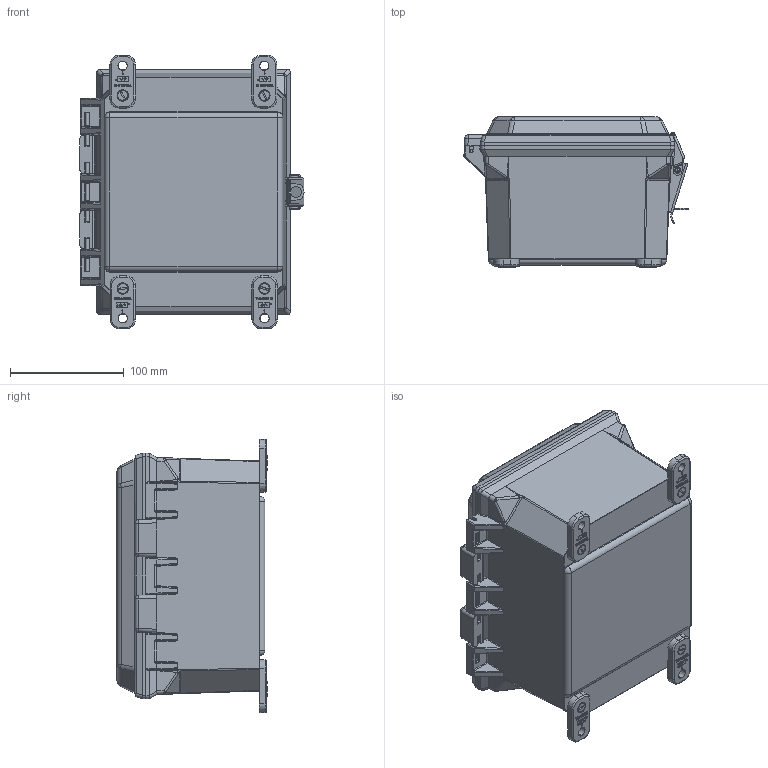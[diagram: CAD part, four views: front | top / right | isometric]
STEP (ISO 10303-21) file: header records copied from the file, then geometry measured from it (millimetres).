
FILE_DESCRIPTION (( 'STEP AP203' ), '1' );
FILE_NAME ('PJU864LW.step', '2014-07-17T17:43:25', ( '' ), ( '' ), 'SwSTEP 2.0', 'SolidWorks 2014', '' );
FILE_SCHEMA (( 'CONFIG_CONTROL_DESIGN' ));
Length unit declared in the file: inch
Products named in the file (16): AMU864LW_default; 70-HPIN8316; PJU864LW; 70-AMPSSLCH316 (LATCH BASE); 70-AMPSSLCH316 (LATCH LEVER); 2407001_box; 70-AMPSSLCH316 (LATCH HOOK); 2409001_WINDOW; 70-AMPSSLCH316 (RIVET A); 2381001; 70-AMPSSLCH316 (RIVET B); 55-103212; 70-AMPSSLCH316_INSTALLED POSITION; 70-60821-1; 2409051; 55-1032516_PreviewCfg
Assembly tree (24 placements, depth 4):
  PJU864LW
    AMU864LW_default
      2407001_box
      2409001_WINDOW
      2381001  x4
      55-103212  x4
      70-60821-1
      55-1032516_PreviewCfg  x4
      70-HPIN8316
      70-AMPSSLCH316_INSTALLED POSITION
        70-AMPSSLCH316 (LATCH BASE)
        70-AMPSSLCH316 (LATCH LEVER)
        70-AMPSSLCH316 (LATCH HOOK)
        70-AMPSSLCH316 (RIVET A)
        70-AMPSSLCH316 (RIVET B)
      2409051
Bounding box: 197.2 x 131.98 x 240.48 mm (x, y, z)
Volume: 716726.1 mm3; surface area: 416246.1 mm2
Topology: 22 solids, 22 shells, 3689 faces, 9314 edges, 5896 vertices
Faces by surface type: plane 1967, bspline 732, cylinder 680, torus 136, cone 98, sphere 76
Entity records: 119360 total; most frequent: CARTESIAN_POINT 48995, ORIENTED_EDGE 15404, DIRECTION 12165, EDGE_CURVE 7702, VERTEX_POINT 4870, VECTOR 4805, LINE 4805, AXIS2_PLACEMENT_3D 3680
